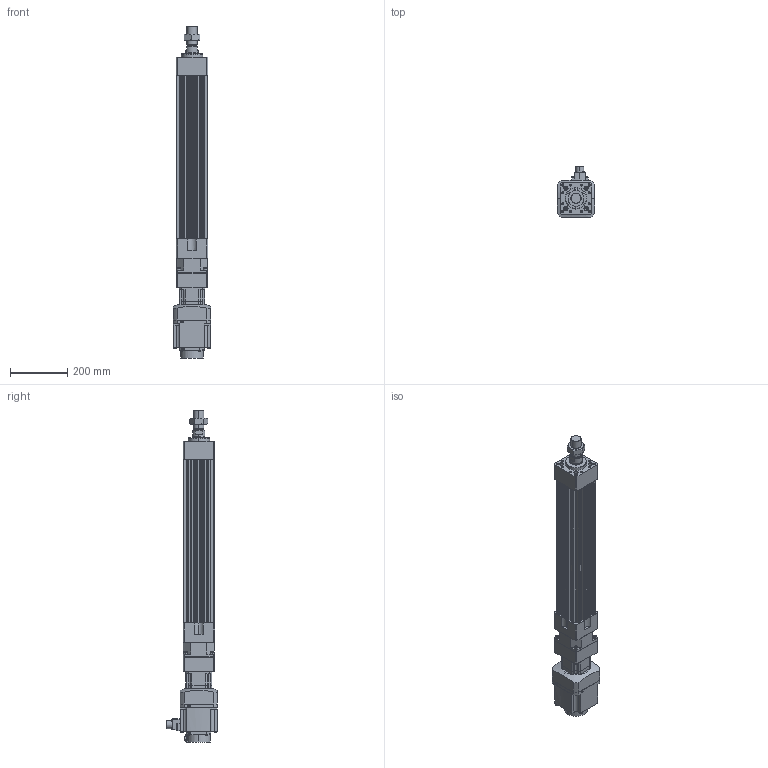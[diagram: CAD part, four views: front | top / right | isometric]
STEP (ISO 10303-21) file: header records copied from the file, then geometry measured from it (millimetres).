
FILE_DESCRIPTION (( 'STEP AP203' ), '1' );
FILE_NAME ('HES110NS(HS)-S400-W010G00-M.STEP', '2023-01-27T04:33:39', ( 'tms' ), ( '' ), 'SwSTEP 2.0', 'SolidWorks 2013', '' );
FILE_SCHEMA (( 'CONFIG_CONTROL_DESIGN' ));
Length unit declared in the file: millimetre
Products named in the file (8): AB0901; M36X1.5P; HG-SR102; HES110 ROD M ST400; HES110NS(HS)-S400-W010G00-M; AB090-003[HG-SR102B]; P0401301004; HES110-S400-G090
Assembly tree (7 placements, depth 3):
  HES110NS(HS)-S400-W010G00-M
    HES110-S400-G090
    HES110 ROD M ST400
    M36X1.5P
    AB090-003[HG-SR102B]
      AB0901
      P0401301004
    HG-SR102
Bounding box: 130 x 177.49 x 1158.5 mm (x, y, z)
Volume: 7413647.5 mm3; surface area: 1005604.2 mm2
Topology: 4 solids, 15 shells, 1197 faces, 3018 edges, 1947 vertices
Faces by surface type: plane 550, cylinder 535, cone 100, bspline 8, torus 4
Entity records: 37761 total; most frequent: CARTESIAN_POINT 7330, DIRECTION 6511, ORIENTED_EDGE 5944, EDGE_CURVE 2982, AXIS2_PLACEMENT_3D 2399, VERTEX_POINT 1947, LINE 1713, VECTOR 1713
